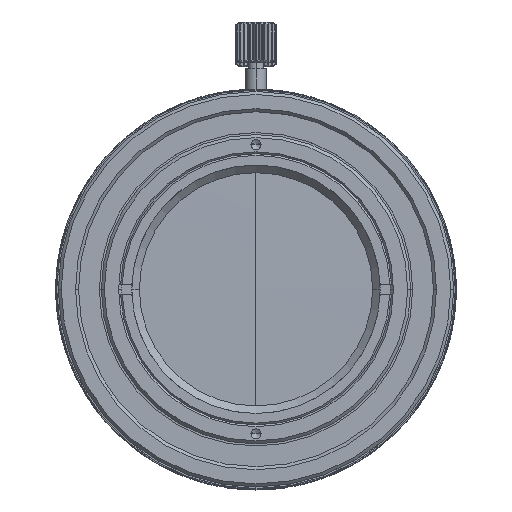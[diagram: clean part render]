
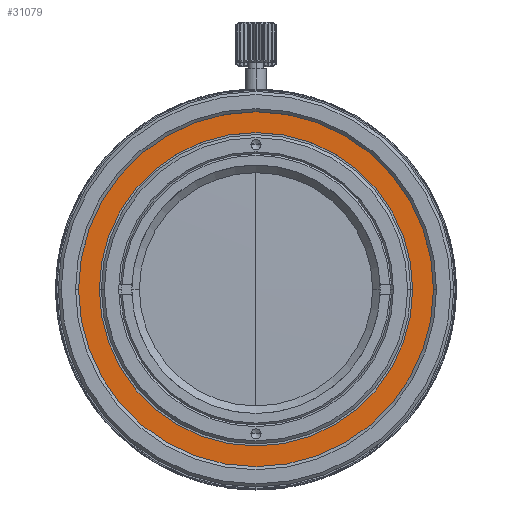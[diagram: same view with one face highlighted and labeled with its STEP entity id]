
A CAD part, top view. The second image highlights one B-rep face of the part: STEP entity #31079.
In plain terms, the highlighted planar face has unit normal (0, 0, 1).
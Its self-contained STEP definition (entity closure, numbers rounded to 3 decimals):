
#31 = FACE_BOUND ( 'NONE', #39274, .T. ) ;
#331 = CARTESIAN_POINT ( 'NONE',  ( 0., 0., 31. ) ) ;
#773 = DIRECTION ( 'NONE',  ( 0., 0., 1. ) ) ;
#3643 = CARTESIAN_POINT ( 'NONE',  ( 0., 17.9, 31. ) ) ;
#4898 = AXIS2_PLACEMENT_3D ( 'NONE', #50455, #773, #14876 ) ;
#5263 = DIRECTION ( 'NONE',  ( 1., 0., 0. ) ) ;
#7023 = CARTESIAN_POINT ( 'NONE',  ( 0., 0., 31. ) ) ;
#9849 = PLANE ( 'NONE',  #41453 ) ;
#10828 = VERTEX_POINT ( 'NONE', #32201 ) ;
#12650 = CARTESIAN_POINT ( 'NONE',  ( -17.9, 0., 31. ) ) ;
#12823 = EDGE_CURVE ( 'NONE', #33401, #18472, #44909, .T. ) ;
#14437 = DIRECTION ( 'NONE',  ( 1., 0., 0. ) ) ;
#14501 = VERTEX_POINT ( 'NONE', #12650 ) ;
#14782 = FACE_OUTER_BOUND ( 'NONE', #27872, .T. ) ;
#14876 = DIRECTION ( 'NONE',  ( 1., 0., 0. ) ) ;
#15385 = CIRCLE ( 'NONE', #4898, 15.45 ) ;
#17594 = ORIENTED_EDGE ( 'NONE', *, *, #12823, .F. ) ;
#18472 = VERTEX_POINT ( 'NONE', #62628 ) ;
#21445 = AXIS2_PLACEMENT_3D ( 'NONE', #29812, #64438, #5263 ) ;
#22086 = CIRCLE ( 'NONE', #54463, 17.9 ) ;
#22822 = ORIENTED_EDGE ( 'NONE', *, *, #40257, .T. ) ;
#23550 = CIRCLE ( 'NONE', #21445, 17.9 ) ;
#25132 = AXIS2_PLACEMENT_3D ( 'NONE', #7023, #56423, #30043 ) ;
#27462 = ORIENTED_EDGE ( 'NONE', *, *, #57209, .T. ) ;
#27872 = EDGE_LOOP ( 'NONE', ( #27462, #22822 ) ) ;
#29812 = CARTESIAN_POINT ( 'NONE',  ( 0., 0., 31. ) ) ;
#30043 = DIRECTION ( 'NONE',  ( 1., 0., 0. ) ) ;
#30108 = DIRECTION ( 'NONE',  ( 0., 0., 1. ) ) ;
#31079 = ADVANCED_FACE ( 'NONE', ( #31, #14782 ), #9849, .F. ) ;
#32201 = CARTESIAN_POINT ( 'NONE',  ( 17.9, 0., 31. ) ) ;
#33401 = VERTEX_POINT ( 'NONE', #39814 ) ;
#33750 = DIRECTION ( 'NONE',  ( -1., 0., 0. ) ) ;
#34716 = DIRECTION ( 'NONE',  ( 0., 0., -1. ) ) ;
#39274 = EDGE_LOOP ( 'NONE', ( #48274, #17594 ) ) ;
#39814 = CARTESIAN_POINT ( 'NONE',  ( -15.45, 0., 31. ) ) ;
#40257 = EDGE_CURVE ( 'NONE', #14501, #10828, #23550, .T. ) ;
#41453 = AXIS2_PLACEMENT_3D ( 'NONE', #3643, #34716, #33750 ) ;
#44909 = CIRCLE ( 'NONE', #25132, 15.45 ) ;
#48274 = ORIENTED_EDGE ( 'NONE', *, *, #62243, .F. ) ;
#50455 = CARTESIAN_POINT ( 'NONE',  ( 0., 0., 31. ) ) ;
#54463 = AXIS2_PLACEMENT_3D ( 'NONE', #331, #30108, #14437 ) ;
#56423 = DIRECTION ( 'NONE',  ( 0., 0., 1. ) ) ;
#57209 = EDGE_CURVE ( 'NONE', #10828, #14501, #22086, .T. ) ;
#62243 = EDGE_CURVE ( 'NONE', #18472, #33401, #15385, .T. ) ;
#62628 = CARTESIAN_POINT ( 'NONE',  ( 15.45, 0., 31. ) ) ;
#64438 = DIRECTION ( 'NONE',  ( 0., 0., 1. ) ) ;
